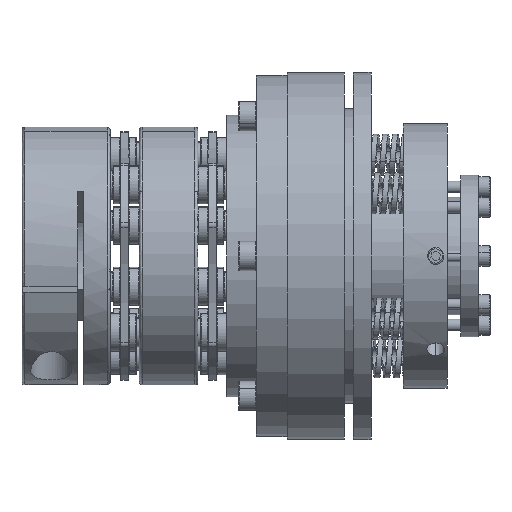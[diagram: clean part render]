
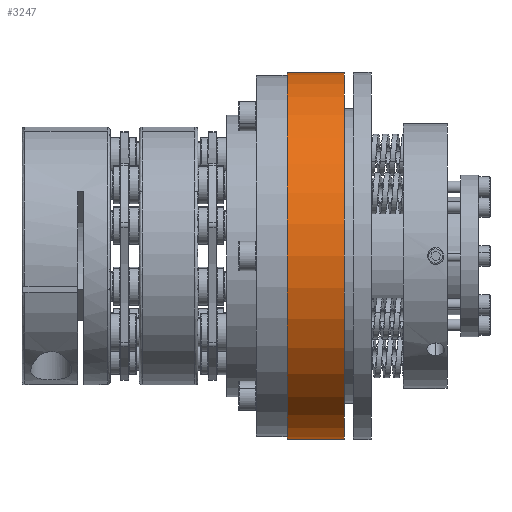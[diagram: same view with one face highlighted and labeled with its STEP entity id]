
A CAD part, front view. The second image highlights one B-rep face of the part: STEP entity #3247.
In plain terms, the highlighted cylindrical face has radius 62.5 mm (diameter 125 mm), a partial arc.
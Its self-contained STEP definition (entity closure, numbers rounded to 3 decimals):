
#516 = LINE ( 'NONE', #26825, #60083 ) ;
#1173 = EDGE_CURVE ( 'NONE', #60197, #110194, #80017, .T. ) ;
#3247 = ADVANCED_FACE ( 'NONE', ( #103314 ), #109083, .T. ) ;
#7513 = DIRECTION ( 'NONE',  ( 0., 0., 1. ) ) ;
#16741 = DIRECTION ( 'NONE',  ( 0., 0., 1. ) ) ;
#18803 = ORIENTED_EDGE ( 'NONE', *, *, #62455, .T. ) ;
#18841 = EDGE_LOOP ( 'NONE', ( #61016, #18803, #48399, #91392 ) ) ;
#26112 = DIRECTION ( 'NONE',  ( -1., 0., 0. ) ) ;
#26825 = CARTESIAN_POINT ( 'NONE',  ( -75.1, 0., 62.5 ) ) ;
#28166 = LINE ( 'NONE', #56860, #42779 ) ;
#31729 = CARTESIAN_POINT ( 'NONE',  ( -54.6, 0., 62.5 ) ) ;
#36885 = AXIS2_PLACEMENT_3D ( 'NONE', #117715, #116909, #90536 ) ;
#42779 = VECTOR ( 'NONE', #101786, 1000. ) ;
#43946 = CARTESIAN_POINT ( 'NONE',  ( -75.1, 0., 0. ) ) ;
#48399 = ORIENTED_EDGE ( 'NONE', *, *, #107415, .T. ) ;
#50386 = VERTEX_POINT ( 'NONE', #106188 ) ;
#52086 = VERTEX_POINT ( 'NONE', #97005 ) ;
#56595 = EDGE_CURVE ( 'NONE', #50386, #60197, #28166, .T. ) ;
#56860 = CARTESIAN_POINT ( 'NONE',  ( -75.1, 0., -62.5 ) ) ;
#60083 = VECTOR ( 'NONE', #63740, 1000. ) ;
#60197 = VERTEX_POINT ( 'NONE', #86871 ) ;
#61016 = ORIENTED_EDGE ( 'NONE', *, *, #56595, .F. ) ;
#62455 = EDGE_CURVE ( 'NONE', #50386, #52086, #100523, .T. ) ;
#62958 = DIRECTION ( 'NONE',  ( -1., 0., 0. ) ) ;
#63740 = DIRECTION ( 'NONE',  ( -1., 0., 0. ) ) ;
#80017 = CIRCLE ( 'NONE', #119705, 62.5 ) ;
#80784 = CARTESIAN_POINT ( 'NONE',  ( -54.6, 0., 0. ) ) ;
#86871 = CARTESIAN_POINT ( 'NONE',  ( -54.6, 0., -62.5 ) ) ;
#90536 = DIRECTION ( 'NONE',  ( 0., 0., 1. ) ) ;
#91392 = ORIENTED_EDGE ( 'NONE', *, *, #1173, .F. ) ;
#93616 = AXIS2_PLACEMENT_3D ( 'NONE', #43946, #62958, #16741 ) ;
#97005 = CARTESIAN_POINT ( 'NONE',  ( -35.1, 0., 62.5 ) ) ;
#100523 = CIRCLE ( 'NONE', #36885, 62.5 ) ;
#101786 = DIRECTION ( 'NONE',  ( -1., 0., 0. ) ) ;
#103314 = FACE_OUTER_BOUND ( 'NONE', #18841, .T. ) ;
#106188 = CARTESIAN_POINT ( 'NONE',  ( -35.1, 0., -62.5 ) ) ;
#107415 = EDGE_CURVE ( 'NONE', #52086, #110194, #516, .T. ) ;
#109083 = CYLINDRICAL_SURFACE ( 'NONE', #93616, 62.5 ) ;
#110194 = VERTEX_POINT ( 'NONE', #31729 ) ;
#116909 = DIRECTION ( 'NONE',  ( -1., 0., 0. ) ) ;
#117715 = CARTESIAN_POINT ( 'NONE',  ( -35.1, 0., 0. ) ) ;
#119705 = AXIS2_PLACEMENT_3D ( 'NONE', #80784, #26112, #7513 ) ;
